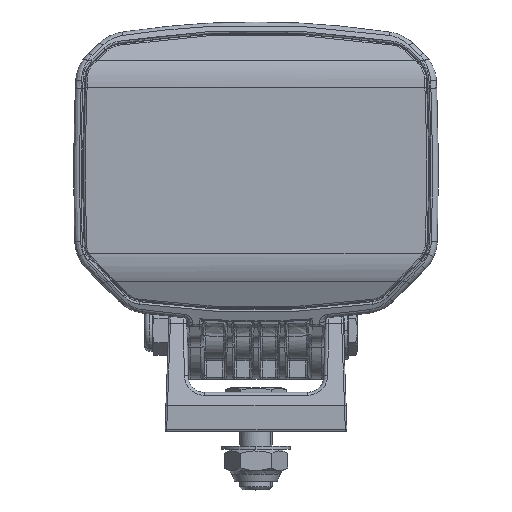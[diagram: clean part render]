
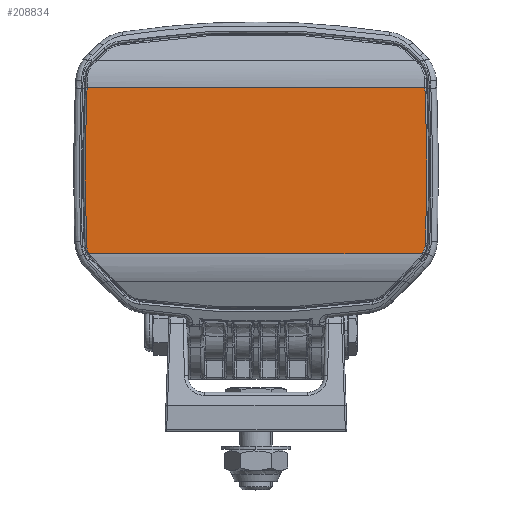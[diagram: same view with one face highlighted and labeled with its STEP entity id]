
A CAD part, top view. The second image highlights one B-rep face of the part: STEP entity #208834.
In plain terms, the highlighted planar face has unit normal (0, 0, 1).
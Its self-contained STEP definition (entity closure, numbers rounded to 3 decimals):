
#199090=AXIS2_PLACEMENT_3D('Circle Axis2P3D',#199088,#199089,$) ;
#201056=AXIS2_PLACEMENT_3D('Circle Axis2P3D',#201054,#201055,$) ;
#201080=AXIS2_PLACEMENT_3D('Circle Axis2P3D',#201078,#201079,$) ;
#201104=AXIS2_PLACEMENT_3D('Circle Axis2P3D',#201102,#201103,$) ;
#202517=AXIS2_PLACEMENT_3D('Circle Axis2P3D',#202515,#202516,$) ;
#202574=AXIS2_PLACEMENT_3D('Circle Axis2P3D',#202572,#202573,$) ;
#202605=AXIS2_PLACEMENT_3D('Circle Axis2P3D',#202603,#202604,$) ;
#202636=AXIS2_PLACEMENT_3D('Circle Axis2P3D',#202634,#202635,$) ;
#208815=AXIS2_PLACEMENT_3D('Plane Axis2P3D',#208812,#208813,#208814) ;
#199066=CARTESIAN_POINT('Vertex',(-51.281,-25.442,27.266)) ;
#199088=CARTESIAN_POINT('Axis2P3D Location',(-47.098,-22.731,27.266)) ;
#199092=CARTESIAN_POINT('Vertex',(-51.604,-24.864,27.266)) ;
#201017=CARTESIAN_POINT('Vertex',(51.141,-25.442,27.266)) ;
#201054=CARTESIAN_POINT('Axis2P3D Location',(-47.059,-22.713,27.266)) ;
#201058=CARTESIAN_POINT('Vertex',(-52.083,-22.907,27.266)) ;
#201078=CARTESIAN_POINT('Axis2P3D Location',(543.5,0.124,27.266)) ;
#201082=CARTESIAN_POINT('Vertex',(-51.982,25.632,27.266)) ;
#201102=CARTESIAN_POINT('Axis2P3D Location',(232.977,13.434,27.266)) ;
#201106=CARTESIAN_POINT('Vertex',(-51.98,25.69,27.266)) ;
#202512=CARTESIAN_POINT('Vertex',(51.447,-24.866,27.266)) ;
#202515=CARTESIAN_POINT('Axis2P3D Location',(45.158,-21.9,27.266)) ;
#202569=CARTESIAN_POINT('Vertex',(51.98,25.69,27.266)) ;
#202572=CARTESIAN_POINT('Axis2P3D Location',(-233.96,13.387,27.266)) ;
#202576=CARTESIAN_POINT('Vertex',(51.982,25.632,27.266)) ;
#202603=CARTESIAN_POINT('Axis2P3D Location',(-543.5,0.124,27.266)) ;
#202607=CARTESIAN_POINT('Vertex',(52.113,-22.132,27.266)) ;
#202634=CARTESIAN_POINT('Axis2P3D Location',(45.089,-21.87,27.266)) ;
#208794=CARTESIAN_POINT('Line Origine',(0.,25.69,27.266)) ;
#208812=CARTESIAN_POINT('Axis2P3D Location',(0.,-25.442,27.266)) ;
#208817=CARTESIAN_POINT('Line Origine',(0.,-25.442,27.266)) ;
#199089=DIRECTION('Axis2P3D Direction',(0.,0.,-1.)) ;
#201055=DIRECTION('Axis2P3D Direction',(0.,0.,-1.)) ;
#201079=DIRECTION('Axis2P3D Direction',(0.,-0.,-1.)) ;
#201103=DIRECTION('Axis2P3D Direction',(0.,-0.,-1.)) ;
#202516=DIRECTION('Axis2P3D Direction',(0.,0.,-1.)) ;
#202573=DIRECTION('Axis2P3D Direction',(0.,0.,-1.)) ;
#202604=DIRECTION('Axis2P3D Direction',(0.,0.,-1.)) ;
#202635=DIRECTION('Axis2P3D Direction',(0.,0.,-1.)) ;
#208795=DIRECTION('Vector Direction',(1.,0.,0.)) ;
#208813=DIRECTION('Axis2P3D Direction',(0.,0.,-1.)) ;
#208814=DIRECTION('Axis2P3D XDirection',(0.,1.,0.)) ;
#208818=DIRECTION('Vector Direction',(1.,0.,0.)) ;
#208796=VECTOR('Line Direction',#208795,1.) ;
#208819=VECTOR('Line Direction',#208818,1.) ;
#208823=ORIENTED_EDGE('',*,*,#201108,.F.) ;
#208824=ORIENTED_EDGE('',*,*,#201084,.F.) ;
#208825=ORIENTED_EDGE('',*,*,#201060,.F.) ;
#208826=ORIENTED_EDGE('',*,*,#199094,.F.) ;
#208827=ORIENTED_EDGE('',*,*,#208821,.T.) ;
#208828=ORIENTED_EDGE('',*,*,#202519,.F.) ;
#208829=ORIENTED_EDGE('',*,*,#202638,.F.) ;
#208830=ORIENTED_EDGE('',*,*,#202609,.F.) ;
#208831=ORIENTED_EDGE('',*,*,#202578,.F.) ;
#208832=ORIENTED_EDGE('',*,*,#208798,.F.) ;
#208834=ADVANCED_FACE('housing_gr',(#208833),#208816,.F.) ;
#199091=CIRCLE('generated circle',#199090,4.985) ;
#201057=CIRCLE('generated circle',#201056,5.028) ;
#201081=CIRCLE('generated circle',#201080,596.028) ;
#201105=CIRCLE('generated circle',#201104,285.221) ;
#202518=CIRCLE('generated circle',#202517,6.953) ;
#202575=CIRCLE('generated circle',#202574,286.205) ;
#202606=CIRCLE('generated circle',#202605,596.028) ;
#202637=CIRCLE('generated circle',#202636,7.028) ;
#199094=EDGE_CURVE('',#199067,#199093,#199091,.T.) ;
#201060=EDGE_CURVE('',#199093,#201059,#201057,.T.) ;
#201084=EDGE_CURVE('',#201059,#201083,#201081,.T.) ;
#201108=EDGE_CURVE('',#201083,#201107,#201105,.T.) ;
#202519=EDGE_CURVE('',#202513,#201018,#202518,.T.) ;
#202578=EDGE_CURVE('',#202570,#202577,#202575,.T.) ;
#202609=EDGE_CURVE('',#202577,#202608,#202606,.T.) ;
#202638=EDGE_CURVE('',#202608,#202513,#202637,.T.) ;
#208798=EDGE_CURVE('',#201107,#202570,#208797,.T.) ;
#208821=EDGE_CURVE('',#199067,#201018,#208820,.T.) ;
#208822=EDGE_LOOP('',(#208823,#208824,#208825,#208826,#208827,#208828,#208829,#208830,#208831,#208832)) ;
#208833=FACE_OUTER_BOUND('',#208822,.T.) ;
#208797=LINE('Line',#208794,#208796) ;
#208820=LINE('Line',#208817,#208819) ;
#208816=PLANE('',#208815) ;
#199067=VERTEX_POINT('',#199066) ;
#199093=VERTEX_POINT('',#199092) ;
#201018=VERTEX_POINT('',#201017) ;
#201059=VERTEX_POINT('',#201058) ;
#201083=VERTEX_POINT('',#201082) ;
#201107=VERTEX_POINT('',#201106) ;
#202513=VERTEX_POINT('',#202512) ;
#202570=VERTEX_POINT('',#202569) ;
#202577=VERTEX_POINT('',#202576) ;
#202608=VERTEX_POINT('',#202607) ;
